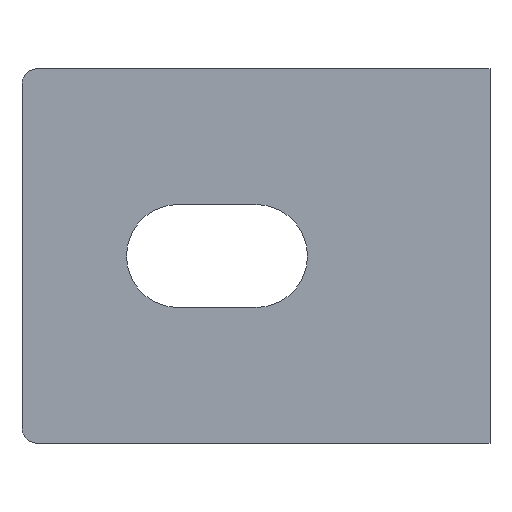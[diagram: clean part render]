
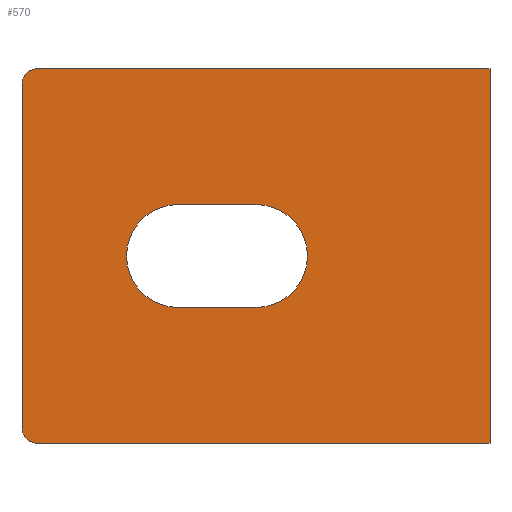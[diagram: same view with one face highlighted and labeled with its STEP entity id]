
A CAD part, front view. The second image highlights one B-rep face of the part: STEP entity #570.
In plain terms, the highlighted planar face has unit normal (0, -1, 0).
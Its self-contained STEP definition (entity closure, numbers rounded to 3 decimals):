
#21 = CIRCLE ( 'NONE', #784, 1. ) ;
#47 = VECTOR ( 'NONE', #1158, 1000. ) ;
#67 = VERTEX_POINT ( 'NONE', #324 ) ;
#86 = DIRECTION ( 'NONE',  ( 0., 1., 0. ) ) ;
#87 = ORIENTED_EDGE ( 'NONE', *, *, #361, .T. ) ;
#105 = CARTESIAN_POINT ( 'NONE',  ( -23.152, -21.279, -12. ) ) ;
#107 = EDGE_CURVE ( 'NONE', #874, #843, #1520, .T. ) ;
#111 = DIRECTION ( 'NONE',  ( 0., 0., -1. ) ) ;
#140 = AXIS2_PLACEMENT_3D ( 'NONE', #346, #695, #1154 ) ;
#147 = DIRECTION ( 'NONE',  ( -1., 0., 0. ) ) ;
#148 = VERTEX_POINT ( 'NONE', #678 ) ;
#167 = AXIS2_PLACEMENT_3D ( 'NONE', #485, #520, #871 ) ;
#183 = EDGE_CURVE ( 'NONE', #67, #874, #1128, .T. ) ;
#194 = EDGE_CURVE ( 'NONE', #330, #313, #265, .T. ) ;
#221 = LINE ( 'NONE', #105, #47 ) ;
#260 = CIRCLE ( 'NONE', #1130, 1. ) ;
#265 = LINE ( 'NONE', #1192, #354 ) ;
#313 = VERTEX_POINT ( 'NONE', #816 ) ;
#321 = CARTESIAN_POINT ( 'NONE',  ( -8.152, -21.279, -3.3 ) ) ;
#323 = EDGE_CURVE ( 'NONE', #148, #1378, #221, .T. ) ;
#324 = CARTESIAN_POINT ( 'NONE',  ( -16.452, -21.279, 0. ) ) ;
#330 = VERTEX_POINT ( 'NONE', #321 ) ;
#346 = CARTESIAN_POINT ( 'NONE',  ( -8.152, -21.279, 0. ) ) ;
#354 = VECTOR ( 'NONE', #1449, 1000. ) ;
#361 = EDGE_CURVE ( 'NONE', #843, #330, #1108, .T. ) ;
#362 = ORIENTED_EDGE ( 'NONE', *, *, #183, .T. ) ;
#374 = DIRECTION ( 'NONE',  ( -1., 0., 0. ) ) ;
#385 = VERTEX_POINT ( 'NONE', #919 ) ;
#400 = CARTESIAN_POINT ( 'NONE',  ( -13.152, -21.279, 3.3 ) ) ;
#418 = EDGE_CURVE ( 'NONE', #385, #1306, #1522, .T. ) ;
#430 = PLANE ( 'NONE',  #1111 ) ;
#436 = VECTOR ( 'NONE', #111, 1000. ) ;
#468 = EDGE_CURVE ( 'NONE', #1315, #1017, #1095, .T. ) ;
#485 = CARTESIAN_POINT ( 'NONE',  ( -13.152, -21.279, 0. ) ) ;
#487 = CARTESIAN_POINT ( 'NONE',  ( -22.152, -21.279, -11. ) ) ;
#499 = ORIENTED_EDGE ( 'NONE', *, *, #194, .T. ) ;
#520 = DIRECTION ( 'NONE',  ( 0., 1., 0. ) ) ;
#524 = ORIENTED_EDGE ( 'NONE', *, *, #792, .T. ) ;
#525 = ORIENTED_EDGE ( 'NONE', *, *, #886, .T. ) ;
#535 = FACE_OUTER_BOUND ( 'NONE', #753, .T. ) ;
#543 = ORIENTED_EDGE ( 'NONE', *, *, #323, .T. ) ;
#570 = ADVANCED_FACE ( 'NONE', ( #881, #535 ), #430, .F. ) ;
#574 = CARTESIAN_POINT ( 'NONE',  ( 0., -21.279, 0. ) ) ;
#594 = CARTESIAN_POINT ( 'NONE',  ( 6.848, -21.279, -12. ) ) ;
#644 = ORIENTED_EDGE ( 'NONE', *, *, #781, .F. ) ;
#673 = VECTOR ( 'NONE', #693, 1000. ) ;
#678 = CARTESIAN_POINT ( 'NONE',  ( -23.152, -21.279, 11. ) ) ;
#681 = ORIENTED_EDGE ( 'NONE', *, *, #107, .T. ) ;
#693 = DIRECTION ( 'NONE',  ( 1., 0., 0. ) ) ;
#695 = DIRECTION ( 'NONE',  ( 0., 1., 0. ) ) ;
#697 = EDGE_CURVE ( 'NONE', #1378, #1315, #21, .T. ) ;
#742 = CARTESIAN_POINT ( 'NONE',  ( -22.152, -21.279, 11. ) ) ;
#751 = CARTESIAN_POINT ( 'NONE',  ( -23.152, -21.279, 12. ) ) ;
#753 = EDGE_LOOP ( 'NONE', ( #543, #960, #837, #644, #1253, #525 ) ) ;
#760 = CARTESIAN_POINT ( 'NONE',  ( 0.848, -21.279, -12. ) ) ;
#773 = CARTESIAN_POINT ( 'NONE',  ( -22.152, -21.279, 12. ) ) ;
#774 = DIRECTION ( 'NONE',  ( -1., 0., 0. ) ) ;
#777 = EDGE_LOOP ( 'NONE', ( #681, #87, #499, #524, #362 ) ) ;
#781 = EDGE_CURVE ( 'NONE', #385, #1017, #1068, .T. ) ;
#784 = AXIS2_PLACEMENT_3D ( 'NONE', #487, #1304, #374 ) ;
#792 = EDGE_CURVE ( 'NONE', #313, #67, #1300, .T. ) ;
#805 = AXIS2_PLACEMENT_3D ( 'NONE', #1215, #888, #1101 ) ;
#816 = CARTESIAN_POINT ( 'NONE',  ( -13.152, -21.279, -3.3 ) ) ;
#821 = CARTESIAN_POINT ( 'NONE',  ( -13.152, -21.279, 3.3 ) ) ;
#837 = ORIENTED_EDGE ( 'NONE', *, *, #468, .T. ) ;
#843 = VERTEX_POINT ( 'NONE', #990 ) ;
#871 = DIRECTION ( 'NONE',  ( -1., 0., 0. ) ) ;
#874 = VERTEX_POINT ( 'NONE', #400 ) ;
#881 = FACE_BOUND ( 'NONE', #777, .T. ) ;
#886 = EDGE_CURVE ( 'NONE', #1306, #148, #260, .T. ) ;
#887 = CARTESIAN_POINT ( 'NONE',  ( -22.152, -21.279, -12. ) ) ;
#888 = DIRECTION ( 'NONE',  ( 0., 1., 0. ) ) ;
#914 = DIRECTION ( 'NONE',  ( -1., 0., 0. ) ) ;
#919 = CARTESIAN_POINT ( 'NONE',  ( 6.848, -21.279, 12. ) ) ;
#960 = ORIENTED_EDGE ( 'NONE', *, *, #697, .T. ) ;
#990 = CARTESIAN_POINT ( 'NONE',  ( -8.152, -21.279, 3.3 ) ) ;
#1017 = VERTEX_POINT ( 'NONE', #1273 ) ;
#1026 = VECTOR ( 'NONE', #147, 1000. ) ;
#1068 = LINE ( 'NONE', #594, #436 ) ;
#1095 = LINE ( 'NONE', #760, #1147 ) ;
#1101 = DIRECTION ( 'NONE',  ( -1., 0., 0. ) ) ;
#1108 = CIRCLE ( 'NONE', #140, 3.3 ) ;
#1111 = AXIS2_PLACEMENT_3D ( 'NONE', #574, #86, #914 ) ;
#1128 = CIRCLE ( 'NONE', #167, 3.3 ) ;
#1130 = AXIS2_PLACEMENT_3D ( 'NONE', #742, #1208, #774 ) ;
#1147 = VECTOR ( 'NONE', #1321, 1000. ) ;
#1154 = DIRECTION ( 'NONE',  ( -1., 0., 0. ) ) ;
#1158 = DIRECTION ( 'NONE',  ( 0., 0., -1. ) ) ;
#1192 = CARTESIAN_POINT ( 'NONE',  ( -8.152, -21.279, -3.3 ) ) ;
#1208 = DIRECTION ( 'NONE',  ( 0., -1., 0. ) ) ;
#1215 = CARTESIAN_POINT ( 'NONE',  ( -13.152, -21.279, 0. ) ) ;
#1253 = ORIENTED_EDGE ( 'NONE', *, *, #418, .T. ) ;
#1273 = CARTESIAN_POINT ( 'NONE',  ( 6.848, -21.279, -12. ) ) ;
#1300 = CIRCLE ( 'NONE', #805, 3.3 ) ;
#1304 = DIRECTION ( 'NONE',  ( 0., -1., 0. ) ) ;
#1306 = VERTEX_POINT ( 'NONE', #773 ) ;
#1315 = VERTEX_POINT ( 'NONE', #887 ) ;
#1321 = DIRECTION ( 'NONE',  ( 1., 0., 0. ) ) ;
#1378 = VERTEX_POINT ( 'NONE', #1464 ) ;
#1449 = DIRECTION ( 'NONE',  ( -1., 0., 0. ) ) ;
#1464 = CARTESIAN_POINT ( 'NONE',  ( -23.152, -21.279, -11. ) ) ;
#1520 = LINE ( 'NONE', #821, #673 ) ;
#1522 = LINE ( 'NONE', #751, #1026 ) ;
